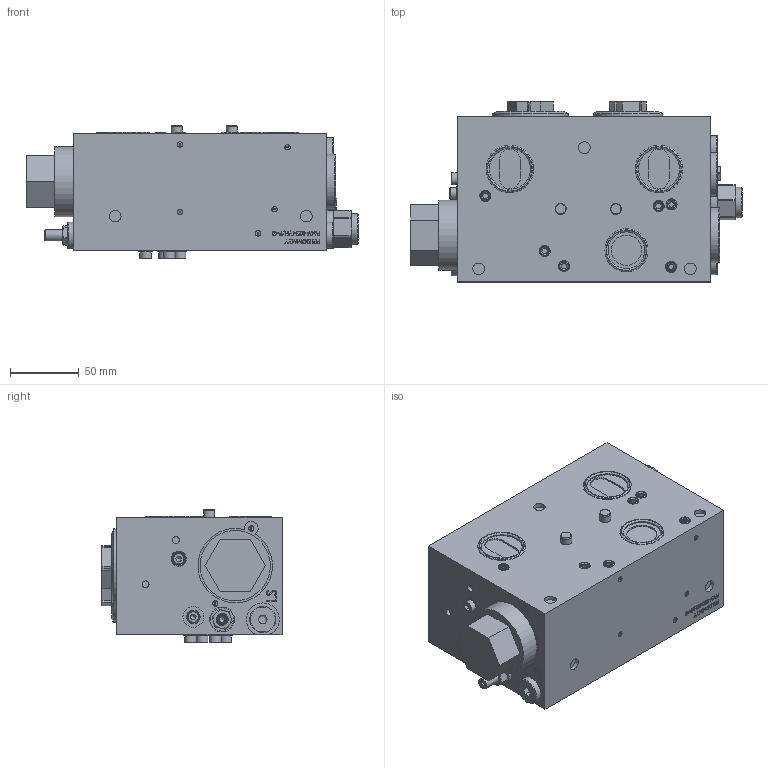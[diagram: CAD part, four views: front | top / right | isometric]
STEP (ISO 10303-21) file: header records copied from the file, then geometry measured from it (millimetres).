
FILE_DESCRIPTION (( 'STEP AP214' ), '1' );
FILE_NAME ('0304506.STEP', '2022-08-01T14:11:05', ( '' ), ( '' ), 'SwSTEP 2.0', 'SolidWorks 2020', '' );
FILE_SCHEMA (( 'AUTOMOTIVE_DESIGN' ));
Length unit declared in the file: millimetre
Products named in the file (21): 0072022_238.7401; 0290158_001; 0072022_238.3402; 0290158_013; 0293549_002; 0290158_015; 0074697_246.2308; 0304506; 0072022_238.8400; 0295364_001; 0073842_153.2402; 0072022_238.2406; 0072126_221.5560; 0295366_001; 0283782_001; 0287187_001; 0289301_002; 0288965_003; 0073837_049.2050; 0166400_001; 0292893_002
Assembly tree (51 placements, depth 3):
  0304506
    0292893_002
    0283782_001  x13
    0289301_002
      0288965_003
      0072022_238.3402
    0072022_238.8400
    0072022_238.7401
    0072022_238.2406  x3
    0166400_001
    0293549_002
    0287187_001
    0073842_153.2402
    0073837_049.2050  x6
    0074697_246.2308  x6
    0290158_001  x6
    0290158_013  x2
    0290158_015
    0295366_001
    0295364_001
    0072126_221.5560  x2
Bounding box: 240.8 x 130.7 x 97 mm (x, y, z)
Volume: 2023798.7 mm3; surface area: 171566.8 mm2
Topology: 75 solids, 75 shells, 1716 faces, 3649 edges, 2305 vertices
Faces by surface type: plane 903, cone 337, cylinder 297, bspline 158, torus 21
Full cylindrical faces by diameter (mm): 0.6 x13, 1.1 x13, 3.5 x13, 3.7 x1, 3.767 x13, 4 x20, 4.1 x1, 4.2 x5, 4.47 x6, 5 x12, 5.7 x6, 6 x1, 6.8 x1, 7 x1, 7.8 x6, 7.85 x12, 8 x5, 8.03 x6, 8.5 x16, 10 x6, 10.95 x1, 11.3 x3, 11.445 x4, 11.6 x3, 13.16 x1, 13.2 x3, 14.5 x1, 14.6 x1, 15 x1, 16.5 x3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
Entity records: 38322 total; most frequent: CARTESIAN_POINT 12993, DIRECTION 4494, ORIENTED_EDGE 4462, EDGE_CURVE 2231, VERTEX_POINT 1597, AXIS2_PLACEMENT_3D 1521, EDGE_LOOP 1518, VECTOR 1452
